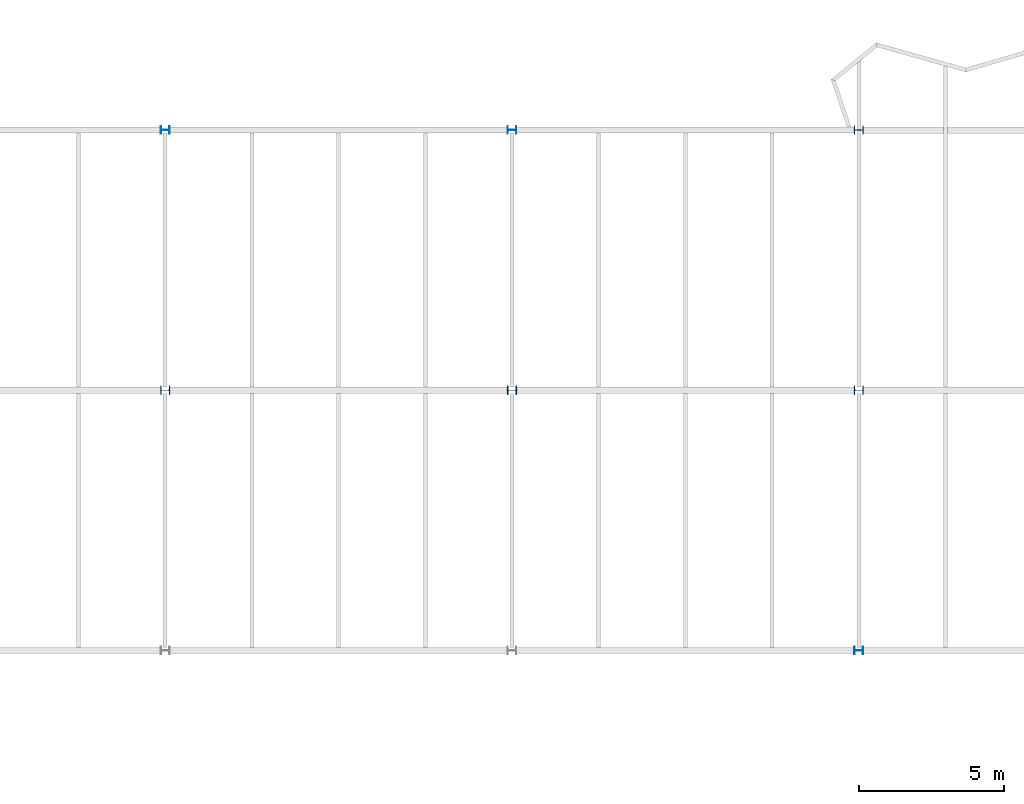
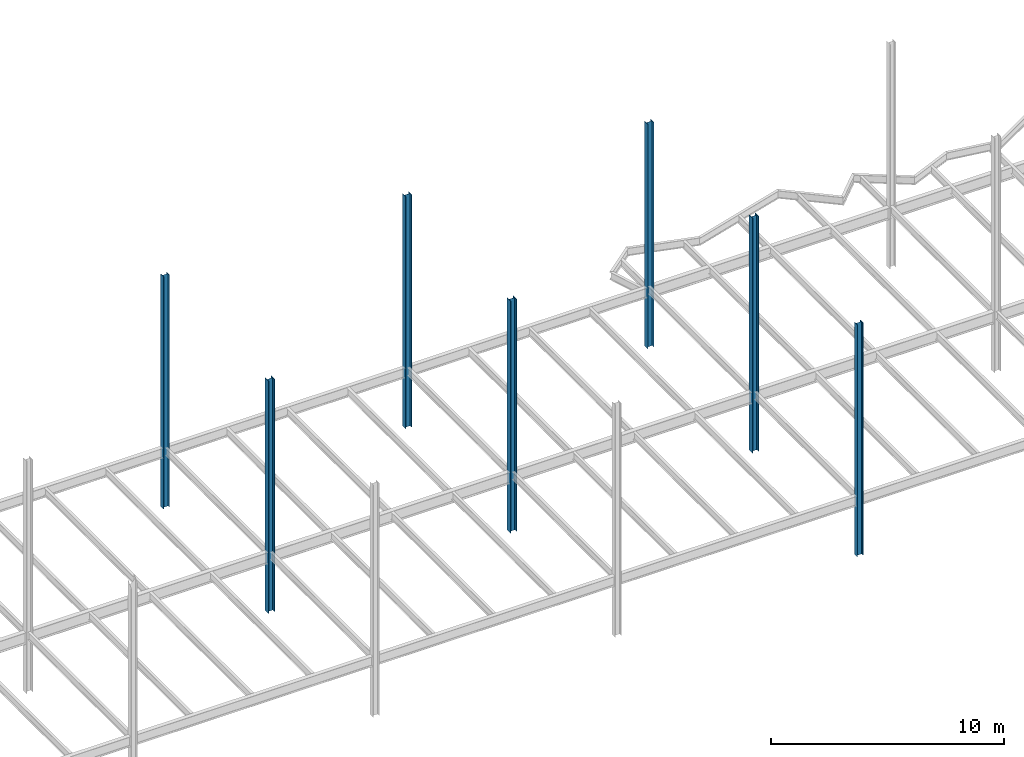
# One storey, part 2 of 26: 7 columns.
"""IFC2X3 building model written with IfcOpenShell, lengths in millimetres."""

from ifc_helpers import new_model, si_unit, origin, place, context, project, spatial, faceted_brep, material, element, save


model = new_model("IFC2X3")

# Units and contexts
context_of_model = context(None, 3, precision=1e-05, world=origin())
ifc_project = project(units=[si_unit("LENGTHUNIT", "METRE", prefix="MILLI")], contexts=[context_of_model])

# Building, storey
building = spatial("IfcBuilding", under=ifc_project, Name="Building", CompositionType="ELEMENT")
storey = spatial("IfcBuildingStorey", under=building, Name="FL4-FRM", CompositionType="ELEMENT")

# Columns
ifc_material_1 = material(Name="A992")
column_1_placement = place(None, origin())
element("IfcColumn", 1, at=column_1_placement, inside=storey, material=ifc_material_1, Name="Column305", context=context_of_model, shape_type="Brep", body=[
    faceted_brep([(36153.0, 26873.0, 10194.2), (36153.0, 27127.0, 10194.2), (36153.0, 27127.0, 22373.0), (36153.0, 26873.0, 22373.0), (36138.4, 27127.0, 10194.2), (36138.4, 27127.0, 22373.0), (36138.4, 27019.6, 10194.2), (36138.4, 27019.6, 22373.0), (36137.9, 27015.7, 10194.2), (36137.9, 27015.7, 22373.0), (36136.4, 27012.0, 10194.2), (36136.4, 27012.0, 22373.0), (36133.9, 27008.9, 10194.2), (36133.9, 27008.9, 22373.0), (36130.8, 27006.4, 10194.2), (36130.8, 27006.4, 22373.0), (36127.1, 27004.9, 10194.2), (36127.1, 27004.9, 22373.0), (36123.2, 27004.4, 10194.2), (36123.2, 27004.4, 22373.0), (35876.8, 27004.4, 10194.2), (35876.8, 27004.4, 22373.0), (35872.9, 27004.9, 10194.2), (35872.9, 27004.9, 22373.0), (35869.2, 27006.4, 10194.2), (35869.2, 27006.4, 22373.0), (35866.1, 27008.9, 10194.2), (35866.1, 27008.9, 22373.0), (35863.6, 27012.0, 10194.2), (35863.6, 27012.0, 22373.0), (35862.1, 27015.7, 10194.2), (35862.1, 27015.7, 22373.0), (35861.6, 27019.6, 10194.2), (35861.6, 27019.6, 22373.0), (35861.6, 27127.0, 10194.2), (35861.6, 27127.0, 22373.0), (35847.0, 27127.0, 10194.2), (35847.0, 27127.0, 22373.0), (35847.0, 26873.0, 10194.2), (35847.0, 26873.0, 22373.0), (35861.6, 26873.0, 10194.2), (35861.6, 26873.0, 22373.0), (35861.6, 26980.4, 10194.2), (35861.6, 26980.4, 22373.0), (35862.1, 26984.3, 10194.2), (35862.1, 26984.3, 22373.0), (35863.6, 26988.0, 10194.2), (35863.6, 26988.0, 22373.0), (35866.1, 26991.1, 10194.2), (35866.1, 26991.1, 22373.0), (35869.2, 26993.6, 10194.2), (35869.2, 26993.6, 22373.0), (35872.9, 26995.1, 10194.2), (35872.9, 26995.1, 22373.0), (35876.8, 26995.6, 10194.2), (35876.8, 26995.6, 22373.0), (36123.2, 26995.6, 10194.2), (36123.2, 26995.6, 22373.0), (36127.1, 26995.1, 10194.2), (36127.1, 26995.1, 22373.0), (36130.8, 26993.6, 10194.2), (36130.8, 26993.6, 22373.0), (36133.9, 26991.1, 10194.2), (36133.9, 26991.1, 22373.0), (36136.4, 26988.0, 10194.2), (36136.4, 26988.0, 22373.0), (36137.9, 26984.3, 10194.2), (36137.9, 26984.3, 22373.0), (36138.4, 26980.4, 10194.2), (36138.4, 26980.4, 22373.0), (36138.4, 26873.0, 10194.2), (36138.4, 26873.0, 22373.0)], [[[0, 1, 2, 3]], [[1, 4, 5, 2]], [[4, 6, 7, 5]], [[6, 8, 9, 7]], [[8, 10, 11, 9]], [[10, 12, 13, 11]], [[12, 14, 15, 13]], [[14, 16, 17, 15]], [[16, 18, 19, 17]], [[18, 20, 21, 19]], [[20, 22, 23, 21]], [[22, 24, 25, 23]], [[24, 26, 27, 25]], [[26, 28, 29, 27]], [[28, 30, 31, 29]], [[30, 32, 33, 31]], [[32, 34, 35, 33]], [[34, 36, 37, 35]], [[36, 38, 39, 37]], [[38, 40, 41, 39]], [[40, 42, 43, 41]], [[42, 44, 45, 43]], [[44, 46, 47, 45]], [[46, 48, 49, 47]], [[48, 50, 51, 49]], [[50, 52, 53, 51]], [[52, 54, 55, 53]], [[54, 56, 57, 55]], [[56, 58, 59, 57]], [[58, 60, 61, 59]], [[60, 62, 63, 61]], [[62, 64, 65, 63]], [[64, 66, 67, 65]], [[66, 68, 69, 67]], [[68, 70, 71, 69]], [[70, 0, 3, 71]], [[0, 70, 68, 66, 64, 62, 60, 58, 56, 54, 52, 50, 48, 46, 44, 42, 40, 38, 36, 34, 32, 30, 28, 26, 24, 22, 20, 18, 16, 14, 12, 10, 8, 6, 4, 1]], [[3, 2, 5, 7, 9, 11, 13, 15, 17, 19, 21, 23, 25, 27, 29, 31, 33, 35, 37, 39, 41, 43, 45, 47, 49, 51, 53, 55, 57, 59, 61, 63, 65, 67, 69, 71]]]),
])
ifc_material_2 = material(Name="A992")
column_2_placement = place(None, origin())
element("IfcColumn", 2, at=column_2_placement, inside=storey, material=ifc_material_2, Name="Column307", context=context_of_model, shape_type="Brep", body=[
    faceted_brep([(36157.0, 17846.5, 10194.2), (36157.0, 18153.5, 10194.2), (36157.0, 18153.5, 22373.0), (36157.0, 17846.5, 22373.0), (36138.3, 18153.5, 10194.2), (36138.3, 18153.5, 22373.0), (36138.3, 18021.1, 10194.2), (36138.3, 18021.1, 22373.0), (36137.8, 18017.2, 10194.2), (36137.8, 18017.2, 22373.0), (36136.3, 18013.5, 10194.2), (36136.3, 18013.5, 22373.0), (36133.8, 18010.4, 10194.2), (36133.8, 18010.4, 22373.0), (36130.7, 18008.0, 10194.2), (36130.7, 18008.0, 22373.0), (36127.0, 18006.5, 10194.2), (36127.0, 18006.5, 22373.0), (36123.1, 18005.9, 10194.2), (36123.1, 18005.9, 22373.0), (35876.9, 18005.9, 10194.2), (35876.9, 18005.9, 22373.0), (35873.0, 18006.5, 10194.2), (35873.0, 18006.5, 22373.0), (35869.3, 18008.0, 10194.2), (35869.3, 18008.0, 22373.0), (35866.2, 18010.4, 10194.2), (35866.2, 18010.4, 22373.0), (35863.7, 18013.5, 10194.2), (35863.7, 18013.5, 22373.0), (35862.2, 18017.2, 10194.2), (35862.2, 18017.2, 22373.0), (35861.7, 18021.1, 10194.2), (35861.7, 18021.1, 22373.0), (35861.7, 18153.5, 10194.2), (35861.7, 18153.5, 22373.0), (35843.0, 18153.5, 10194.2), (35843.0, 18153.5, 22373.0), (35843.0, 17846.5, 10194.2), (35843.0, 17846.5, 22373.0), (35861.7, 17846.5, 10194.2), (35861.7, 17846.5, 22373.0), (35861.7, 17978.9, 10194.2), (35861.7, 17978.9, 22373.0), (35862.2, 17982.8, 10194.2), (35862.2, 17982.8, 22373.0), (35863.7, 17986.5, 10194.2), (35863.7, 17986.5, 22373.0), (35866.2, 17989.6, 10194.2), (35866.2, 17989.6, 22373.0), (35869.3, 17992.0, 10194.2), (35869.3, 17992.0, 22373.0), (35873.0, 17993.5, 10194.2), (35873.0, 17993.5, 22373.0), (35876.9, 17994.1, 10194.2), (35876.9, 17994.1, 22373.0), (36123.1, 17994.1, 10194.2), (36123.1, 17994.1, 22373.0), (36127.0, 17993.5, 10194.2), (36127.0, 17993.5, 22373.0), (36130.7, 17992.0, 10194.2), (36130.7, 17992.0, 22373.0), (36133.8, 17989.6, 10194.2), (36133.8, 17989.6, 22373.0), (36136.3, 17986.5, 10194.2), (36136.3, 17986.5, 22373.0), (36137.8, 17982.8, 10194.2), (36137.8, 17982.8, 22373.0), (36138.3, 17978.9, 10194.2), (36138.3, 17978.9, 22373.0), (36138.3, 17846.5, 10194.2), (36138.3, 17846.5, 22373.0)], [[[0, 1, 2, 3]], [[1, 4, 5, 2]], [[4, 6, 7, 5]], [[6, 8, 9, 7]], [[8, 10, 11, 9]], [[10, 12, 13, 11]], [[12, 14, 15, 13]], [[14, 16, 17, 15]], [[16, 18, 19, 17]], [[18, 20, 21, 19]], [[20, 22, 23, 21]], [[22, 24, 25, 23]], [[24, 26, 27, 25]], [[26, 28, 29, 27]], [[28, 30, 31, 29]], [[30, 32, 33, 31]], [[32, 34, 35, 33]], [[34, 36, 37, 35]], [[36, 38, 39, 37]], [[38, 40, 41, 39]], [[40, 42, 43, 41]], [[42, 44, 45, 43]], [[44, 46, 47, 45]], [[46, 48, 49, 47]], [[48, 50, 51, 49]], [[50, 52, 53, 51]], [[52, 54, 55, 53]], [[54, 56, 57, 55]], [[56, 58, 59, 57]], [[58, 60, 61, 59]], [[60, 62, 63, 61]], [[62, 64, 65, 63]], [[64, 66, 67, 65]], [[66, 68, 69, 67]], [[68, 70, 71, 69]], [[70, 0, 3, 71]], [[0, 70, 68, 66, 64, 62, 60, 58, 56, 54, 52, 50, 48, 46, 44, 42, 40, 38, 36, 34, 32, 30, 28, 26, 24, 22, 20, 18, 16, 14, 12, 10, 8, 6, 4, 1]], [[3, 2, 5, 7, 9, 11, 13, 15, 17, 19, 21, 23, 25, 27, 29, 31, 33, 35, 37, 39, 41, 43, 45, 47, 49, 51, 53, 55, 57, 59, 61, 63, 65, 67, 69, 71]]]),
])
ifc_material_3 = material(Name="A992")
column_3_placement = place(None, origin())
element("IfcColumn", 3, at=column_3_placement, inside=storey, material=ifc_material_3, Name="Column311", context=context_of_model, shape_type="Brep", body=[
    faceted_brep([(48153.0, 26873.0, 10194.2), (48153.0, 27127.0, 10194.2), (48153.0, 27127.0, 22373.0), (48153.0, 26873.0, 22373.0), (48138.4, 27127.0, 10194.2), (48138.4, 27127.0, 22373.0), (48138.4, 27019.6, 10194.2), (48138.4, 27019.6, 22373.0), (48137.9, 27015.7, 10194.2), (48137.9, 27015.7, 22373.0), (48136.4, 27012.0, 10194.2), (48136.4, 27012.0, 22373.0), (48133.9, 27008.9, 10194.2), (48133.9, 27008.9, 22373.0), (48130.8, 27006.4, 10194.2), (48130.8, 27006.4, 22373.0), (48127.1, 27004.9, 10194.2), (48127.1, 27004.9, 22373.0), (48123.2, 27004.4, 10194.2), (48123.2, 27004.4, 22373.0), (47876.8, 27004.4, 10194.2), (47876.8, 27004.4, 22373.0), (47872.9, 27004.9, 10194.2), (47872.9, 27004.9, 22373.0), (47869.2, 27006.4, 10194.2), (47869.2, 27006.4, 22373.0), (47866.1, 27008.9, 10194.2), (47866.1, 27008.9, 22373.0), (47863.6, 27012.0, 10194.2), (47863.6, 27012.0, 22373.0), (47862.1, 27015.7, 10194.2), (47862.1, 27015.7, 22373.0), (47861.6, 27019.6, 10194.2), (47861.6, 27019.6, 22373.0), (47861.6, 27127.0, 10194.2), (47861.6, 27127.0, 22373.0), (47847.0, 27127.0, 10194.2), (47847.0, 27127.0, 22373.0), (47847.0, 26873.0, 10194.2), (47847.0, 26873.0, 22373.0), (47861.6, 26873.0, 10194.2), (47861.6, 26873.0, 22373.0), (47861.6, 26980.4, 10194.2), (47861.6, 26980.4, 22373.0), (47862.1, 26984.3, 10194.2), (47862.1, 26984.3, 22373.0), (47863.6, 26988.0, 10194.2), (47863.6, 26988.0, 22373.0), (47866.1, 26991.1, 10194.2), (47866.1, 26991.1, 22373.0), (47869.2, 26993.6, 10194.2), (47869.2, 26993.6, 22373.0), (47872.9, 26995.1, 10194.2), (47872.9, 26995.1, 22373.0), (47876.8, 26995.6, 10194.2), (47876.8, 26995.6, 22373.0), (48123.2, 26995.6, 10194.2), (48123.2, 26995.6, 22373.0), (48127.1, 26995.1, 10194.2), (48127.1, 26995.1, 22373.0), (48130.8, 26993.6, 10194.2), (48130.8, 26993.6, 22373.0), (48133.9, 26991.1, 10194.2), (48133.9, 26991.1, 22373.0), (48136.4, 26988.0, 10194.2), (48136.4, 26988.0, 22373.0), (48137.9, 26984.3, 10194.2), (48137.9, 26984.3, 22373.0), (48138.4, 26980.4, 10194.2), (48138.4, 26980.4, 22373.0), (48138.4, 26873.0, 10194.2), (48138.4, 26873.0, 22373.0)], [[[0, 1, 2, 3]], [[1, 4, 5, 2]], [[4, 6, 7, 5]], [[6, 8, 9, 7]], [[8, 10, 11, 9]], [[10, 12, 13, 11]], [[12, 14, 15, 13]], [[14, 16, 17, 15]], [[16, 18, 19, 17]], [[18, 20, 21, 19]], [[20, 22, 23, 21]], [[22, 24, 25, 23]], [[24, 26, 27, 25]], [[26, 28, 29, 27]], [[28, 30, 31, 29]], [[30, 32, 33, 31]], [[32, 34, 35, 33]], [[34, 36, 37, 35]], [[36, 38, 39, 37]], [[38, 40, 41, 39]], [[40, 42, 43, 41]], [[42, 44, 45, 43]], [[44, 46, 47, 45]], [[46, 48, 49, 47]], [[48, 50, 51, 49]], [[50, 52, 53, 51]], [[52, 54, 55, 53]], [[54, 56, 57, 55]], [[56, 58, 59, 57]], [[58, 60, 61, 59]], [[60, 62, 63, 61]], [[62, 64, 65, 63]], [[64, 66, 67, 65]], [[66, 68, 69, 67]], [[68, 70, 71, 69]], [[70, 0, 3, 71]], [[0, 70, 68, 66, 64, 62, 60, 58, 56, 54, 52, 50, 48, 46, 44, 42, 40, 38, 36, 34, 32, 30, 28, 26, 24, 22, 20, 18, 16, 14, 12, 10, 8, 6, 4, 1]], [[3, 2, 5, 7, 9, 11, 13, 15, 17, 19, 21, 23, 25, 27, 29, 31, 33, 35, 37, 39, 41, 43, 45, 47, 49, 51, 53, 55, 57, 59, 61, 63, 65, 67, 69, 71]]]),
])
ifc_material_4 = material(Name="A992")
column_4_placement = place(None, origin())
element("IfcColumn", 4, at=column_4_placement, inside=storey, material=ifc_material_4, Name="Column313", context=context_of_model, shape_type="Brep", body=[
    faceted_brep([(48157.0, 17846.5, 10194.2), (48157.0, 18153.5, 10194.2), (48157.0, 18153.5, 22373.0), (48157.0, 17846.5, 22373.0), (48138.3, 18153.5, 10194.2), (48138.3, 18153.5, 22373.0), (48138.3, 18021.1, 10194.2), (48138.3, 18021.1, 22373.0), (48137.8, 18017.2, 10194.2), (48137.8, 18017.2, 22373.0), (48136.3, 18013.5, 10194.2), (48136.3, 18013.5, 22373.0), (48133.8, 18010.4, 10194.2), (48133.8, 18010.4, 22373.0), (48130.7, 18008.0, 10194.2), (48130.7, 18008.0, 22373.0), (48127.0, 18006.5, 10194.2), (48127.0, 18006.5, 22373.0), (48123.1, 18005.9, 10194.2), (48123.1, 18005.9, 22373.0), (47876.9, 18005.9, 10194.2), (47876.9, 18005.9, 22373.0), (47873.0, 18006.5, 10194.2), (47873.0, 18006.5, 22373.0), (47869.3, 18008.0, 10194.2), (47869.3, 18008.0, 22373.0), (47866.2, 18010.4, 10194.2), (47866.2, 18010.4, 22373.0), (47863.7, 18013.5, 10194.2), (47863.7, 18013.5, 22373.0), (47862.2, 18017.2, 10194.2), (47862.2, 18017.2, 22373.0), (47861.7, 18021.1, 10194.2), (47861.7, 18021.1, 22373.0), (47861.7, 18153.5, 10194.2), (47861.7, 18153.5, 22373.0), (47843.0, 18153.5, 10194.2), (47843.0, 18153.5, 22373.0), (47843.0, 17846.5, 10194.2), (47843.0, 17846.5, 22373.0), (47861.7, 17846.5, 10194.2), (47861.7, 17846.5, 22373.0), (47861.7, 17978.9, 10194.2), (47861.7, 17978.9, 22373.0), (47862.2, 17982.8, 10194.2), (47862.2, 17982.8, 22373.0), (47863.7, 17986.5, 10194.2), (47863.7, 17986.5, 22373.0), (47866.2, 17989.6, 10194.2), (47866.2, 17989.6, 22373.0), (47869.3, 17992.0, 10194.2), (47869.3, 17992.0, 22373.0), (47873.0, 17993.5, 10194.2), (47873.0, 17993.5, 22373.0), (47876.9, 17994.1, 10194.2), (47876.9, 17994.1, 22373.0), (48123.1, 17994.1, 10194.2), (48123.1, 17994.1, 22373.0), (48127.0, 17993.5, 10194.2), (48127.0, 17993.5, 22373.0), (48130.7, 17992.0, 10194.2), (48130.7, 17992.0, 22373.0), (48133.8, 17989.6, 10194.2), (48133.8, 17989.6, 22373.0), (48136.3, 17986.5, 10194.2), (48136.3, 17986.5, 22373.0), (48137.8, 17982.8, 10194.2), (48137.8, 17982.8, 22373.0), (48138.3, 17978.9, 10194.2), (48138.3, 17978.9, 22373.0), (48138.3, 17846.5, 10194.2), (48138.3, 17846.5, 22373.0)], [[[0, 1, 2, 3]], [[1, 4, 5, 2]], [[4, 6, 7, 5]], [[6, 8, 9, 7]], [[8, 10, 11, 9]], [[10, 12, 13, 11]], [[12, 14, 15, 13]], [[14, 16, 17, 15]], [[16, 18, 19, 17]], [[18, 20, 21, 19]], [[20, 22, 23, 21]], [[22, 24, 25, 23]], [[24, 26, 27, 25]], [[26, 28, 29, 27]], [[28, 30, 31, 29]], [[30, 32, 33, 31]], [[32, 34, 35, 33]], [[34, 36, 37, 35]], [[36, 38, 39, 37]], [[38, 40, 41, 39]], [[40, 42, 43, 41]], [[42, 44, 45, 43]], [[44, 46, 47, 45]], [[46, 48, 49, 47]], [[48, 50, 51, 49]], [[50, 52, 53, 51]], [[52, 54, 55, 53]], [[54, 56, 57, 55]], [[56, 58, 59, 57]], [[58, 60, 61, 59]], [[60, 62, 63, 61]], [[62, 64, 65, 63]], [[64, 66, 67, 65]], [[66, 68, 69, 67]], [[68, 70, 71, 69]], [[70, 0, 3, 71]], [[0, 70, 68, 66, 64, 62, 60, 58, 56, 54, 52, 50, 48, 46, 44, 42, 40, 38, 36, 34, 32, 30, 28, 26, 24, 22, 20, 18, 16, 14, 12, 10, 8, 6, 4, 1]], [[3, 2, 5, 7, 9, 11, 13, 15, 17, 19, 21, 23, 25, 27, 29, 31, 33, 35, 37, 39, 41, 43, 45, 47, 49, 51, 53, 55, 57, 59, 61, 63, 65, 67, 69, 71]]]),
])
ifc_material_5 = material(Name="A992")
column_5_placement = place(None, origin())
element("IfcColumn", 5, at=column_5_placement, inside=storey, material=ifc_material_5, Name="Column317", context=context_of_model, shape_type="Brep", body=[
    faceted_brep([(60154.0, 26847.5, 10194.2), (60154.0, 27152.5, 10194.2), (60154.0, 27152.5, 21970.0), (60154.0, 26847.5, 21970.0), (60138.6, 27152.5, 10194.2), (60138.6, 27152.5, 21970.0), (60138.6, 27020.1, 10194.2), (60138.6, 27020.1, 21970.0), (60138.1, 27016.2, 10194.2), (60138.1, 27016.2, 21970.0), (60136.6, 27012.5, 10194.2), (60136.6, 27012.5, 21970.0), (60134.1, 27009.4, 10194.2), (60134.1, 27009.4, 21970.0), (60131.0, 27007.0, 10194.2), (60131.0, 27007.0, 21970.0), (60127.3, 27005.5, 10194.2), (60127.3, 27005.5, 21970.0), (60123.4, 27004.9, 10194.2), (60123.4, 27004.9, 21970.0), (59876.6, 27004.9, 10194.2), (59876.6, 27004.9, 21970.0), (59872.7, 27005.5, 10194.2), (59872.7, 27005.5, 21970.0), (59869.0, 27007.0, 10194.2), (59869.0, 27007.0, 21970.0), (59865.9, 27009.4, 10194.2), (59865.9, 27009.4, 21970.0), (59863.4, 27012.5, 10194.2), (59863.4, 27012.5, 21970.0), (59861.9, 27016.2, 10194.2), (59861.9, 27016.2, 21970.0), (59861.4, 27020.1, 10194.2), (59861.4, 27020.1, 21970.0), (59861.4, 27152.5, 10194.2), (59861.4, 27152.5, 21970.0), (59846.0, 27152.5, 10194.2), (59846.0, 27152.5, 21970.0), (59846.0, 26847.5, 10194.2), (59846.0, 26847.5, 21970.0), (59861.4, 26847.5, 10194.2), (59861.4, 26847.5, 21970.0), (59861.4, 26979.9, 10194.2), (59861.4, 26979.9, 21970.0), (59861.9, 26983.8, 10194.2), (59861.9, 26983.8, 21970.0), (59863.4, 26987.5, 10194.2), (59863.4, 26987.5, 21970.0), (59865.9, 26990.6, 10194.2), (59865.9, 26990.6, 21970.0), (59869.0, 26993.0, 10194.2), (59869.0, 26993.0, 21970.0), (59872.7, 26994.5, 10194.2), (59872.7, 26994.5, 21970.0), (59876.6, 26995.1, 10194.2), (59876.6, 26995.1, 21970.0), (60123.4, 26995.1, 10194.2), (60123.4, 26995.1, 21970.0), (60127.3, 26994.5, 10194.2), (60127.3, 26994.5, 21970.0), (60131.0, 26993.0, 10194.2), (60131.0, 26993.0, 21970.0), (60134.1, 26990.6, 10194.2), (60134.1, 26990.6, 21970.0), (60136.6, 26987.5, 10194.2), (60136.6, 26987.5, 21970.0), (60138.1, 26983.8, 10194.2), (60138.1, 26983.8, 21970.0), (60138.6, 26979.9, 10194.2), (60138.6, 26979.9, 21970.0), (60138.6, 26847.5, 10194.2), (60138.6, 26847.5, 21970.0)], [[[0, 1, 2, 3]], [[1, 4, 5, 2]], [[4, 6, 7, 5]], [[6, 8, 9, 7]], [[8, 10, 11, 9]], [[10, 12, 13, 11]], [[12, 14, 15, 13]], [[14, 16, 17, 15]], [[16, 18, 19, 17]], [[18, 20, 21, 19]], [[20, 22, 23, 21]], [[22, 24, 25, 23]], [[24, 26, 27, 25]], [[26, 28, 29, 27]], [[28, 30, 31, 29]], [[30, 32, 33, 31]], [[32, 34, 35, 33]], [[34, 36, 37, 35]], [[36, 38, 39, 37]], [[38, 40, 41, 39]], [[40, 42, 43, 41]], [[42, 44, 45, 43]], [[44, 46, 47, 45]], [[46, 48, 49, 47]], [[48, 50, 51, 49]], [[50, 52, 53, 51]], [[52, 54, 55, 53]], [[54, 56, 57, 55]], [[56, 58, 59, 57]], [[58, 60, 61, 59]], [[60, 62, 63, 61]], [[62, 64, 65, 63]], [[64, 66, 67, 65]], [[66, 68, 69, 67]], [[68, 70, 71, 69]], [[70, 0, 3, 71]], [[0, 70, 68, 66, 64, 62, 60, 58, 56, 54, 52, 50, 48, 46, 44, 42, 40, 38, 36, 34, 32, 30, 28, 26, 24, 22, 20, 18, 16, 14, 12, 10, 8, 6, 4, 1]], [[3, 2, 5, 7, 9, 11, 13, 15, 17, 19, 21, 23, 25, 27, 29, 31, 33, 35, 37, 39, 41, 43, 45, 47, 49, 51, 53, 55, 57, 59, 61, 63, 65, 67, 69, 71]]]),
])
ifc_material_6 = material(Name="A992")
column_6_placement = place(None, origin())
element("IfcColumn", 6, at=column_6_placement, inside=storey, material=ifc_material_6, Name="Column319", context=context_of_model, shape_type="Brep", body=[
    faceted_brep([(60157.0, 17846.5, 10194.2), (60157.0, 18153.5, 10194.2), (60157.0, 18153.5, 22500.0), (60157.0, 17846.5, 22500.0), (60138.3, 18153.5, 10194.2), (60138.3, 18153.5, 22500.0), (60138.3, 18021.1, 10194.2), (60138.3, 18021.1, 22500.0), (60137.8, 18017.2, 10194.2), (60137.8, 18017.2, 22500.0), (60136.3, 18013.5, 10194.2), (60136.3, 18013.5, 22500.0), (60133.8, 18010.4, 10194.2), (60133.8, 18010.4, 22500.0), (60130.7, 18008.0, 10194.2), (60130.7, 18008.0, 22500.0), (60127.0, 18006.5, 10194.2), (60127.0, 18006.5, 22500.0), (60123.1, 18005.9, 10194.2), (60123.1, 18005.9, 22500.0), (59876.9, 18005.9, 10194.2), (59876.9, 18005.9, 22500.0), (59873.0, 18006.5, 10194.2), (59873.0, 18006.5, 22500.0), (59869.3, 18008.0, 10194.2), (59869.3, 18008.0, 22500.0), (59866.2, 18010.4, 10194.2), (59866.2, 18010.4, 22500.0), (59863.7, 18013.5, 10194.2), (59863.7, 18013.5, 22500.0), (59862.2, 18017.2, 10194.2), (59862.2, 18017.2, 22500.0), (59861.7, 18021.1, 10194.2), (59861.7, 18021.1, 22500.0), (59861.7, 18153.5, 10194.2), (59861.7, 18153.5, 22500.0), (59843.0, 18153.5, 10194.2), (59843.0, 18153.5, 22500.0), (59843.0, 17846.5, 10194.2), (59843.0, 17846.5, 22500.0), (59861.7, 17846.5, 10194.2), (59861.7, 17846.5, 22500.0), (59861.7, 17978.9, 10194.2), (59861.7, 17978.9, 22500.0), (59862.2, 17982.8, 10194.2), (59862.2, 17982.8, 22500.0), (59863.7, 17986.5, 10194.2), (59863.7, 17986.5, 22500.0), (59866.2, 17989.6, 10194.2), (59866.2, 17989.6, 22500.0), (59869.3, 17992.0, 10194.2), (59869.3, 17992.0, 22500.0), (59873.0, 17993.5, 10194.2), (59873.0, 17993.5, 22500.0), (59876.9, 17994.1, 10194.2), (59876.9, 17994.1, 22500.0), (60123.1, 17994.1, 10194.2), (60123.1, 17994.1, 22500.0), (60127.0, 17993.5, 10194.2), (60127.0, 17993.5, 22500.0), (60130.7, 17992.0, 10194.2), (60130.7, 17992.0, 22500.0), (60133.8, 17989.6, 10194.2), (60133.8, 17989.6, 22500.0), (60136.3, 17986.5, 10194.2), (60136.3, 17986.5, 22500.0), (60137.8, 17982.8, 10194.2), (60137.8, 17982.8, 22500.0), (60138.3, 17978.9, 10194.2), (60138.3, 17978.9, 22500.0), (60138.3, 17846.5, 10194.2), (60138.3, 17846.5, 22500.0)], [[[0, 1, 2, 3]], [[1, 4, 5, 2]], [[4, 6, 7, 5]], [[6, 8, 9, 7]], [[8, 10, 11, 9]], [[10, 12, 13, 11]], [[12, 14, 15, 13]], [[14, 16, 17, 15]], [[16, 18, 19, 17]], [[18, 20, 21, 19]], [[20, 22, 23, 21]], [[22, 24, 25, 23]], [[24, 26, 27, 25]], [[26, 28, 29, 27]], [[28, 30, 31, 29]], [[30, 32, 33, 31]], [[32, 34, 35, 33]], [[34, 36, 37, 35]], [[36, 38, 39, 37]], [[38, 40, 41, 39]], [[40, 42, 43, 41]], [[42, 44, 45, 43]], [[44, 46, 47, 45]], [[46, 48, 49, 47]], [[48, 50, 51, 49]], [[50, 52, 53, 51]], [[52, 54, 55, 53]], [[54, 56, 57, 55]], [[56, 58, 59, 57]], [[58, 60, 61, 59]], [[60, 62, 63, 61]], [[62, 64, 65, 63]], [[64, 66, 67, 65]], [[66, 68, 69, 67]], [[68, 70, 71, 69]], [[70, 0, 3, 71]], [[0, 70, 68, 66, 64, 62, 60, 58, 56, 54, 52, 50, 48, 46, 44, 42, 40, 38, 36, 34, 32, 30, 28, 26, 24, 22, 20, 18, 16, 14, 12, 10, 8, 6, 4, 1]], [[3, 2, 5, 7, 9, 11, 13, 15, 17, 19, 21, 23, 25, 27, 29, 31, 33, 35, 37, 39, 41, 43, 45, 47, 49, 51, 53, 55, 57, 59, 61, 63, 65, 67, 69, 71]]]),
])
ifc_material_7 = material(Name="A992")
column_7_placement = place(None, origin())
element("IfcColumn", 7, at=column_7_placement, inside=storey, material=ifc_material_7, Name="Column321", context=context_of_model, shape_type="Brep", body=[
    faceted_brep([(60153.0, 8873.0, 10194.2), (60153.0, 9127.0, 10194.2), (60153.0, 9127.0, 22373.0), (60153.0, 8873.0, 22373.0), (60138.4, 9127.0, 10194.2), (60138.4, 9127.0, 22373.0), (60138.4, 9019.6, 10194.2), (60138.4, 9019.6, 22373.0), (60137.9, 9015.67, 10194.2), (60137.9, 9015.67, 22373.0), (60136.4, 9012.0, 10194.2), (60136.4, 9012.0, 22373.0), (60133.9, 9008.85, 10194.2), (60133.9, 9008.85, 22373.0), (60130.8, 9006.44, 10194.2), (60130.8, 9006.44, 22373.0), (60127.1, 9004.92, 10194.2), (60127.1, 9004.92, 22373.0), (60123.2, 9004.4, 10194.2), (60123.2, 9004.4, 22373.0), (59876.8, 9004.4, 10194.2), (59876.8, 9004.4, 22373.0), (59872.9, 9004.92, 10194.2), (59872.9, 9004.92, 22373.0), (59869.2, 9006.44, 10194.2), (59869.2, 9006.44, 22373.0), (59866.1, 9008.85, 10194.2), (59866.1, 9008.85, 22373.0), (59863.6, 9012.0, 10194.2), (59863.6, 9012.0, 22373.0), (59862.1, 9015.67, 10194.2), (59862.1, 9015.67, 22373.0), (59861.6, 9019.6, 10194.2), (59861.6, 9019.6, 22373.0), (59861.6, 9127.0, 10194.2), (59861.6, 9127.0, 22373.0), (59847.0, 9127.0, 10194.2), (59847.0, 9127.0, 22373.0), (59847.0, 8873.0, 10194.2), (59847.0, 8873.0, 22373.0), (59861.6, 8873.0, 10194.2), (59861.6, 8873.0, 22373.0), (59861.6, 8980.4, 10194.2), (59861.6, 8980.4, 22373.0), (59862.1, 8984.33, 10194.2), (59862.1, 8984.33, 22373.0), (59863.6, 8988.0, 10194.2), (59863.6, 8988.0, 22373.0), (59866.1, 8991.15, 10194.2), (59866.1, 8991.15, 22373.0), (59869.2, 8993.56, 10194.2), (59869.2, 8993.56, 22373.0), (59872.9, 8995.08, 10194.2), (59872.9, 8995.08, 22373.0), (59876.8, 8995.6, 10194.2), (59876.8, 8995.6, 22373.0), (60123.2, 8995.6, 10194.2), (60123.2, 8995.6, 22373.0), (60127.1, 8995.08, 10194.2), (60127.1, 8995.08, 22373.0), (60130.8, 8993.56, 10194.2), (60130.8, 8993.56, 22373.0), (60133.9, 8991.15, 10194.2), (60133.9, 8991.15, 22373.0), (60136.4, 8988.0, 10194.2), (60136.4, 8988.0, 22373.0), (60137.9, 8984.33, 10194.2), (60137.9, 8984.33, 22373.0), (60138.4, 8980.4, 10194.2), (60138.4, 8980.4, 22373.0), (60138.4, 8873.0, 10194.2), (60138.4, 8873.0, 22373.0)], [[[0, 1, 2, 3]], [[1, 4, 5, 2]], [[4, 6, 7, 5]], [[6, 8, 9, 7]], [[8, 10, 11, 9]], [[10, 12, 13, 11]], [[12, 14, 15, 13]], [[14, 16, 17, 15]], [[16, 18, 19, 17]], [[18, 20, 21, 19]], [[20, 22, 23, 21]], [[22, 24, 25, 23]], [[24, 26, 27, 25]], [[26, 28, 29, 27]], [[28, 30, 31, 29]], [[30, 32, 33, 31]], [[32, 34, 35, 33]], [[34, 36, 37, 35]], [[36, 38, 39, 37]], [[38, 40, 41, 39]], [[40, 42, 43, 41]], [[42, 44, 45, 43]], [[44, 46, 47, 45]], [[46, 48, 49, 47]], [[48, 50, 51, 49]], [[50, 52, 53, 51]], [[52, 54, 55, 53]], [[54, 56, 57, 55]], [[56, 58, 59, 57]], [[58, 60, 61, 59]], [[60, 62, 63, 61]], [[62, 64, 65, 63]], [[64, 66, 67, 65]], [[66, 68, 69, 67]], [[68, 70, 71, 69]], [[70, 0, 3, 71]], [[0, 70, 68, 66, 64, 62, 60, 58, 56, 54, 52, 50, 48, 46, 44, 42, 40, 38, 36, 34, 32, 30, 28, 26, 24, 22, 20, 18, 16, 14, 12, 10, 8, 6, 4, 1]], [[3, 2, 5, 7, 9, 11, 13, 15, 17, 19, 21, 23, 25, 27, 29, 31, 33, 35, 37, 39, 41, 43, 45, 47, 49, 51, 53, 55, 57, 59, 61, 63, 65, 67, 69, 71]]]),
])

save(model, "model.ifc")
